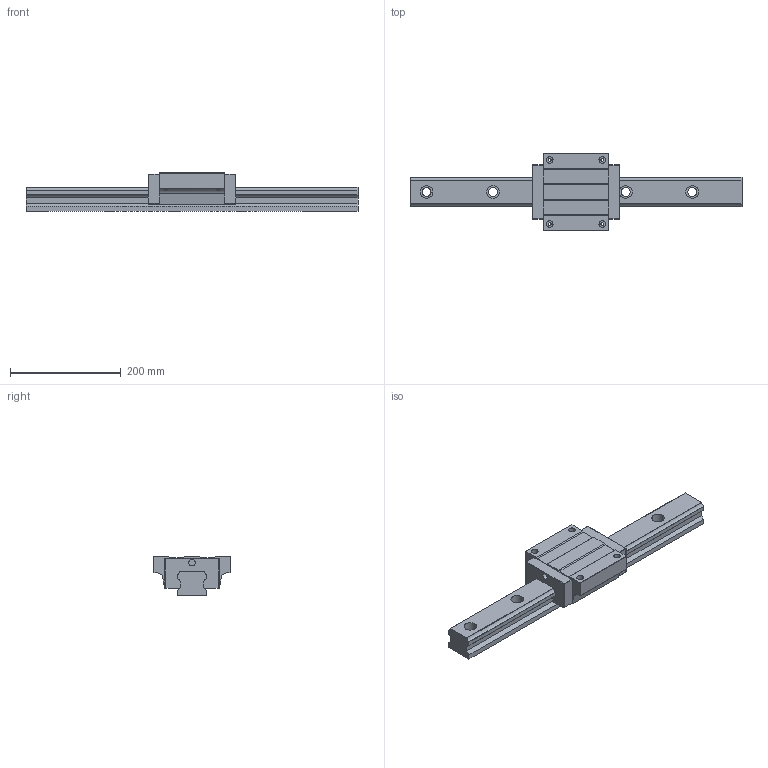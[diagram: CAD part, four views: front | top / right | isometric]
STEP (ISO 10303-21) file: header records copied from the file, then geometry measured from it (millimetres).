
FILE_DESCRIPTION (( 'STEP AP203' ), '1' );
FILE_NAME ('TRH55FL-XNC.STEP', '2024-08-16T06:05:00', ( '' ), ( '' ), 'SwSTEP 2.0', 'SolidWorks 2021', '' );
FILE_SCHEMA (( 'CONFIG_CONTROL_DESIGN' ));
Length unit declared in the file: millimetre
Products named in the file (1): TRH55FL-XNC
Bounding box: 600 x 140 x 70 mm (x, y, z)
Volume: 1920166.6 mm3; surface area: 212211.2 mm2
Topology: 1 solids, 1 shells, 174 faces, 482 edges, 314 vertices
Faces by surface type: cylinder 88, plane 82, sphere 4
Entity records: 6074 total; most frequent: CARTESIAN_POINT 1398, DIRECTION 980, ORIENTED_EDGE 956, EDGE_CURVE 478, AXIS2_PLACEMENT_3D 341, VERTEX_POINT 314, VECTOR 298, LINE 298
